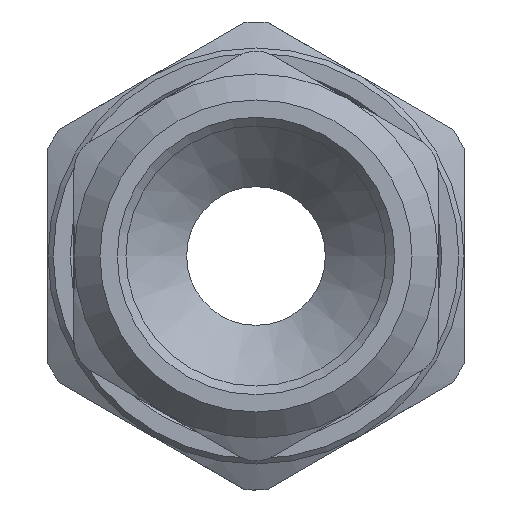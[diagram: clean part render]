
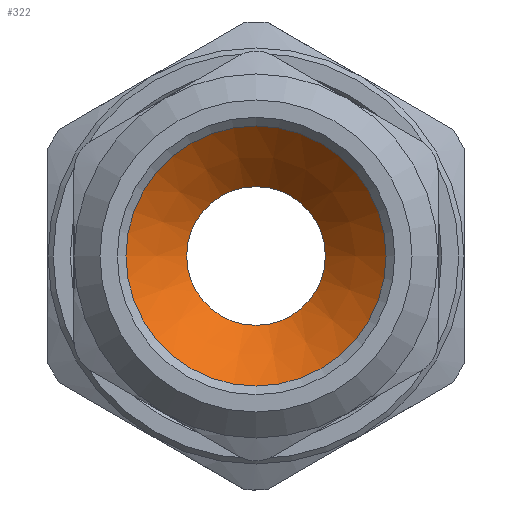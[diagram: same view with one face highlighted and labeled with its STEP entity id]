
A CAD part, front view. The second image highlights one B-rep face of the part: STEP entity #322.
In plain terms, the highlighted conical face has half-angle 45 degrees and reference radius 5.75 mm.
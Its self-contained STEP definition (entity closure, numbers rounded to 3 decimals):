
#322=ADVANCED_FACE('',(#2167,#2169),#2171,.F.);
#2167=FACE_OUTER_BOUND('',#2168,.T.);
#2168=EDGE_LOOP('',(#4155));
#2169=FACE_BOUND('',#2170,.T.);
#2170=EDGE_LOOP('',(#4156,#4157));
#2171=CONICAL_SURFACE('',#2172,5.75,0.785);
#2172=AXIS2_PLACEMENT_3D('',#2173,#2174,#2175);
#2173=CARTESIAN_POINT('',(0.,-9.25,0.));
#2174=DIRECTION('',(0.,-1.,0.));
#2175=DIRECTION('',(1.,0.,0.));
#4155=ORIENTED_EDGE('',*,*,#5023,.F.);
#4156=ORIENTED_EDGE('',*,*,#5025,.F.);
#4157=ORIENTED_EDGE('',*,*,#5026,.F.);
#5023=EDGE_CURVE('',#6232,#6232,#6233,.F.);
#5025=EDGE_CURVE('',#6236,#6237,#6238,.T.);
#5026=EDGE_CURVE('',#6237,#6236,#6239,.T.);
#6232=VERTEX_POINT('',#10274);
#6233=CIRCLE('',#10275,7.5);
#6236=VERTEX_POINT('',#10284);
#6237=VERTEX_POINT('',#10285);
#6238=CIRCLE('',#10286,4.);
#6239=CIRCLE('',#10290,4.);
#10274=CARTESIAN_POINT('',(7.5,-11.,0.));
#10275=AXIS2_PLACEMENT_3D('',#10276,#10277,#10278);
#10276=CARTESIAN_POINT('',(0.,-11.,0.));
#10277=DIRECTION('',(0.,-1.,0.));
#10278=DIRECTION('',(1.,0.,0.));
#10284=CARTESIAN_POINT('',(-4.,-7.5,0.));
#10285=CARTESIAN_POINT('',(4.,-7.5,0.));
#10286=AXIS2_PLACEMENT_3D('',#10287,#10288,#10289);
#10287=CARTESIAN_POINT('',(0.,-7.5,0.));
#10288=DIRECTION('',(0.,-1.,0.));
#10289=DIRECTION('',(-1.,0.,0.));
#10290=AXIS2_PLACEMENT_3D('',#10291,#10292,#10293);
#10291=CARTESIAN_POINT('',(0.,-7.5,0.));
#10292=DIRECTION('',(0.,-1.,0.));
#10293=DIRECTION('',(1.,0.,0.));
